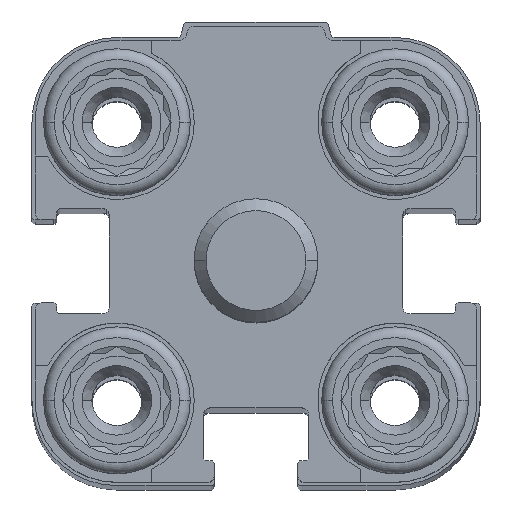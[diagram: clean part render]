
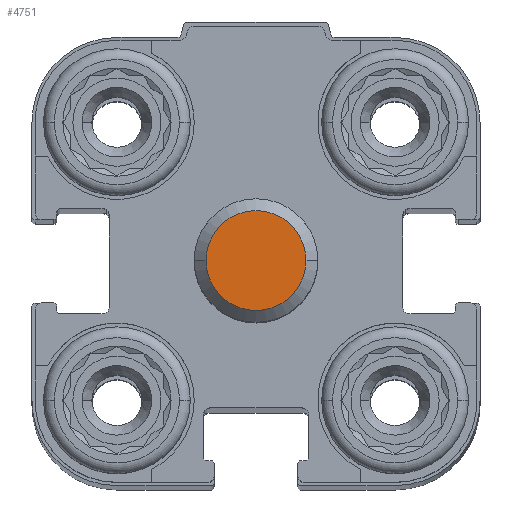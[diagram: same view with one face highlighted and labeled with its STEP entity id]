
A CAD part, top view. The second image highlights one B-rep face of the part: STEP entity #4751.
In plain terms, the highlighted planar face has unit normal (0, 0, 1).
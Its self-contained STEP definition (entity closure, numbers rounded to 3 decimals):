
#52 = FACE_OUTER_BOUND ( 'NONE', #10193, .T. ) ;
#625 = DIRECTION ( 'NONE',  ( -1., 0., 0. ) ) ;
#2221 = CIRCLE ( 'NONE', #7118, 3.233 ) ;
#2668 = DIRECTION ( 'NONE',  ( 0., 0., -1. ) ) ;
#4589 = VERTEX_POINT ( 'NONE', #13084 ) ;
#4751 = ADVANCED_FACE ( 'NONE', ( #52 ), #13878, .F. ) ;
#5676 = AXIS2_PLACEMENT_3D ( 'NONE', #17676, #7822, #17418 ) ;
#7118 = AXIS2_PLACEMENT_3D ( 'NONE', #7292, #12740, #625 ) ;
#7292 = CARTESIAN_POINT ( 'NONE',  ( 0., 0., 24.5 ) ) ;
#7822 = DIRECTION ( 'NONE',  ( 0., 0., -1. ) ) ;
#8161 = DIRECTION ( 'NONE',  ( 0., 1., 0. ) ) ;
#9520 = CARTESIAN_POINT ( 'NONE',  ( -3.233, 0., 24.5 ) ) ;
#10193 = EDGE_LOOP ( 'NONE', ( #17057, #12886 ) ) ;
#10949 = EDGE_CURVE ( 'NONE', #4589, #17433, #2221, .T. ) ;
#11000 = EDGE_CURVE ( 'NONE', #17433, #4589, #15975, .T. ) ;
#11253 = AXIS2_PLACEMENT_3D ( 'NONE', #17750, #2668, #8161 ) ;
#12740 = DIRECTION ( 'NONE',  ( 0., 0., -1. ) ) ;
#12886 = ORIENTED_EDGE ( 'NONE', *, *, #10949, .F. ) ;
#13084 = CARTESIAN_POINT ( 'NONE',  ( 3.233, 0., 24.5 ) ) ;
#13878 = PLANE ( 'NONE',  #11253 ) ;
#15975 = CIRCLE ( 'NONE', #5676, 3.233 ) ;
#17057 = ORIENTED_EDGE ( 'NONE', *, *, #11000, .F. ) ;
#17418 = DIRECTION ( 'NONE',  ( -1., 0., 0. ) ) ;
#17433 = VERTEX_POINT ( 'NONE', #9520 ) ;
#17676 = CARTESIAN_POINT ( 'NONE',  ( 0., 0., 24.5 ) ) ;
#17750 = CARTESIAN_POINT ( 'NONE',  ( 0., 0., 24.5 ) ) ;
